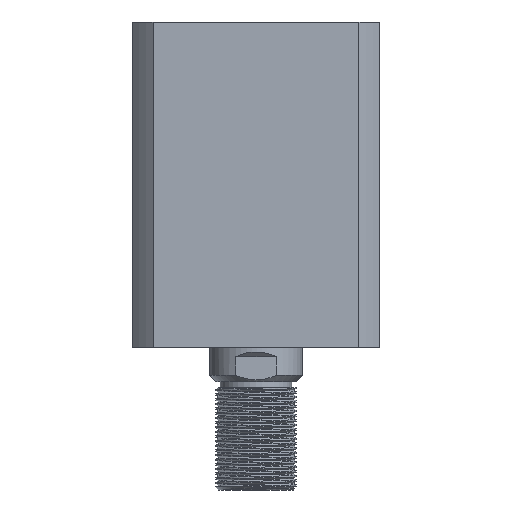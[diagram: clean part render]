
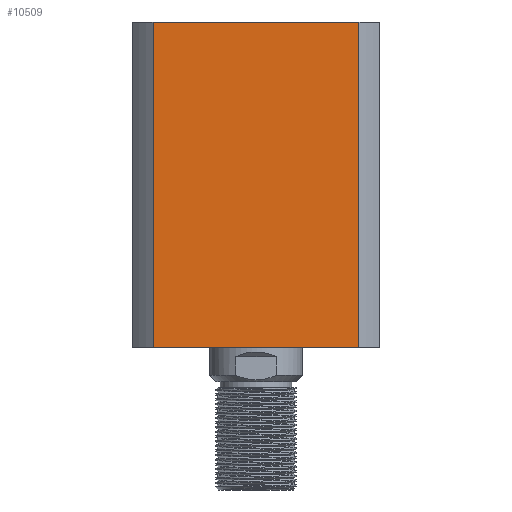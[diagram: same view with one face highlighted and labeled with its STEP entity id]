
A CAD part, left-side view. The second image highlights one B-rep face of the part: STEP entity #10509.
In plain terms, the highlighted planar face has unit normal (-1, 0, 0).
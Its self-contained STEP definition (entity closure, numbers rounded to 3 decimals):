
#517 = ORIENTED_EDGE ( 'NONE', *, *, #13208, .T. ) ;
#922 = EDGE_CURVE ( 'NONE', #1329, #6303, #8280, .T. ) ;
#1329 = VERTEX_POINT ( 'NONE', #4613 ) ;
#1486 = CARTESIAN_POINT ( 'NONE',  ( -40., 33.226, 52.5 ) ) ;
#1790 = ORIENTED_EDGE ( 'NONE', *, *, #5552, .F. ) ;
#2123 = LINE ( 'NONE', #10780, #2557 ) ;
#2478 = EDGE_LOOP ( 'NONE', ( #4468, #1790, #7309, #517 ) ) ;
#2557 = VECTOR ( 'NONE', #5140, 1000. ) ;
#2845 = DIRECTION ( 'NONE',  ( 0., -1., 0. ) ) ;
#3175 = DIRECTION ( 'NONE',  ( 0., -1., 0. ) ) ;
#4307 = CARTESIAN_POINT ( 'NONE',  ( -40., -33.226, 52.5 ) ) ;
#4468 = ORIENTED_EDGE ( 'NONE', *, *, #7941, .T. ) ;
#4613 = CARTESIAN_POINT ( 'NONE',  ( -40., 33.226, 52.5 ) ) ;
#4912 = VERTEX_POINT ( 'NONE', #13954 ) ;
#5140 = DIRECTION ( 'NONE',  ( 0., 0., -1. ) ) ;
#5552 = EDGE_CURVE ( 'NONE', #6303, #4912, #12147, .T. ) ;
#5673 = VECTOR ( 'NONE', #2845, 1000. ) ;
#6279 = VECTOR ( 'NONE', #16771, 1000. ) ;
#6303 = VERTEX_POINT ( 'NONE', #14375 ) ;
#6873 = DIRECTION ( 'NONE',  ( 0., 1., 0. ) ) ;
#6905 = LINE ( 'NONE', #17020, #10163 ) ;
#6943 = PLANE ( 'NONE',  #11921 ) ;
#7309 = ORIENTED_EDGE ( 'NONE', *, *, #922, .F. ) ;
#7941 = EDGE_CURVE ( 'NONE', #16715, #4912, #6905, .T. ) ;
#8206 = CARTESIAN_POINT ( 'NONE',  ( -40., 33.226, -52.5 ) ) ;
#8280 = LINE ( 'NONE', #12012, #5673 ) ;
#10163 = VECTOR ( 'NONE', #3175, 1000. ) ;
#10509 = ADVANCED_FACE ( 'NONE', ( #11880 ), #6943, .F. ) ;
#10780 = CARTESIAN_POINT ( 'NONE',  ( -40., 33.226, 52.5 ) ) ;
#11880 = FACE_OUTER_BOUND ( 'NONE', #2478, .T. ) ;
#11921 = AXIS2_PLACEMENT_3D ( 'NONE', #1486, #12455, #6873 ) ;
#12012 = CARTESIAN_POINT ( 'NONE',  ( -40., 33.226, 52.5 ) ) ;
#12147 = LINE ( 'NONE', #4307, #6279 ) ;
#12455 = DIRECTION ( 'NONE',  ( 1., 0., 0. ) ) ;
#13208 = EDGE_CURVE ( 'NONE', #1329, #16715, #2123, .T. ) ;
#13954 = CARTESIAN_POINT ( 'NONE',  ( -40., -33.226, -52.5 ) ) ;
#14375 = CARTESIAN_POINT ( 'NONE',  ( -40., -33.226, 52.5 ) ) ;
#16715 = VERTEX_POINT ( 'NONE', #8206 ) ;
#16771 = DIRECTION ( 'NONE',  ( 0., 0., -1. ) ) ;
#17020 = CARTESIAN_POINT ( 'NONE',  ( -40., 33.226, -52.5 ) ) ;
